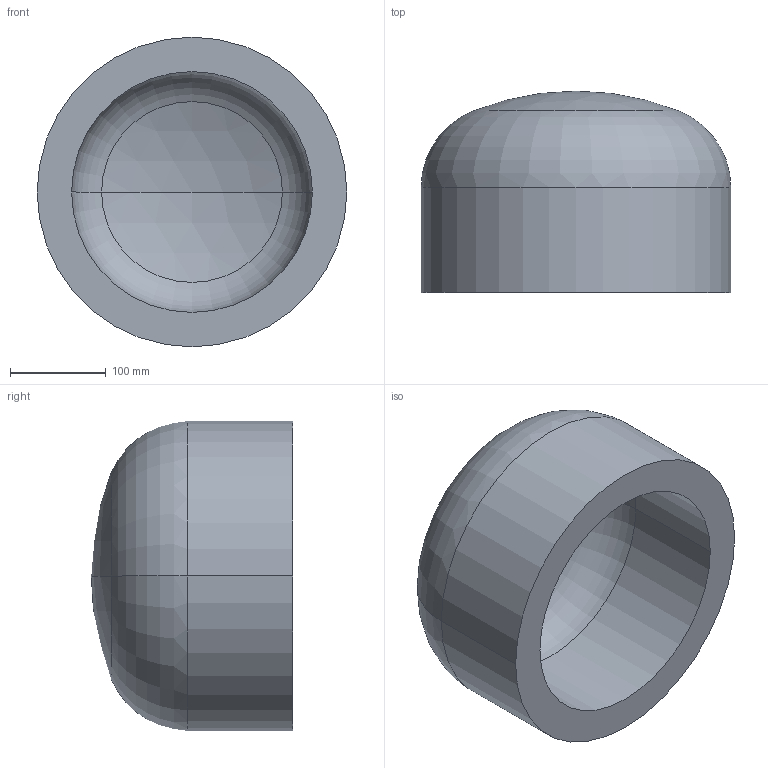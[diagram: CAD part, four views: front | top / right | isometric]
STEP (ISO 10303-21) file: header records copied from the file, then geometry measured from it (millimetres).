
FILE_DESCRIPTION (( 'STEP AP203' ), '1' );
FILE_NAME ('DIN 28013 Korbbogenform_-_Boden DIN 28013 - 323,9 x 110 - I - s=36.step', '2016-07-01T07:45:25', ( '' ), ( '' ), 'SwSTEP 2.0', 'SolidWorks 2013', '' );
FILE_SCHEMA (( 'CONFIG_CONTROL_DESIGN' ));
Length unit declared in the file: millimetre
Products named in the file (1): DIN 28013 Korbbogenform_-_Boden DIN 28013 - 323,9 x 110 - I - s=36
Bounding box: 323.9 x 210.67 x 323.9 mm (x, y, z)
Volume: 7169244 mm3; surface area: 433566.4 mm2
Topology: 1 solids, 1 shells, 13 faces, 24 edges, 14 vertices
Faces by surface type: torus 4, cylinder 4, sphere 4, plane 1
Entity records: 407 total; most frequent: DIRECTION 72, CARTESIAN_POINT 52, ORIENTED_EDGE 48, AXIS2_PLACEMENT_3D 34, EDGE_CURVE 24, CIRCLE 20, VERTEX_POINT 14, EDGE_LOOP 14
